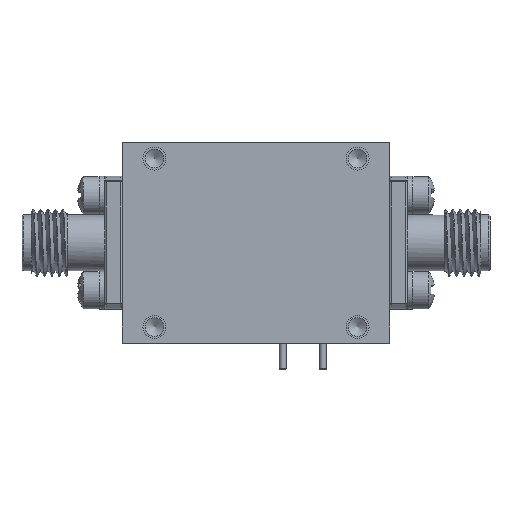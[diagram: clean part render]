
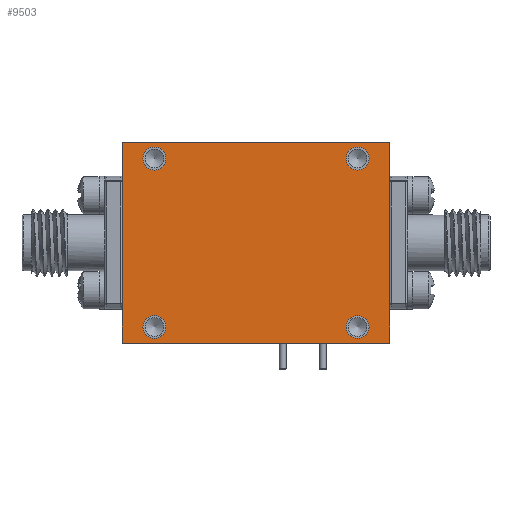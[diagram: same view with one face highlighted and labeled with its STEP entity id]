
A CAD part, front view. The second image highlights one B-rep face of the part: STEP entity #9503.
In plain terms, the highlighted planar face has unit normal (0, -1, 0).
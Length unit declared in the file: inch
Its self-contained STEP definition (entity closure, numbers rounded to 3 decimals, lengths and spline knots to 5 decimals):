
#86 = DIRECTION ( 'NONE',  ( 0., -1., 0. ) ) ;
#333 = VERTEX_POINT ( 'NONE', #12782 ) ;
#790 = LINE ( 'NONE', #971, #27947 ) ;
#971 = CARTESIAN_POINT ( 'NONE',  ( -0.5, -0.25, 0.375 ) ) ;
#1374 = ORIENTED_EDGE ( 'NONE', *, *, #14712, .F. ) ;
#1381 = VERTEX_POINT ( 'NONE', #24839 ) ;
#1410 = AXIS2_PLACEMENT_3D ( 'NONE', #33177, #86, #23452 ) ;
#1908 = AXIS2_PLACEMENT_3D ( 'NONE', #31451, #14201, #16065 ) ;
#1950 = CIRCLE ( 'NONE', #1410, 0.043 ) ;
#2113 = LINE ( 'NONE', #12391, #11161 ) ;
#2443 = LINE ( 'NONE', #7653, #18005 ) ;
#4077 = ORIENTED_EDGE ( 'NONE', *, *, #14228, .F. ) ;
#4260 = EDGE_CURVE ( 'NONE', #333, #26503, #2113, .T. ) ;
#5039 = EDGE_LOOP ( 'NONE', ( #1374 ) ) ;
#5309 = VERTEX_POINT ( 'NONE', #31270 ) ;
#5905 = EDGE_CURVE ( 'NONE', #1381, #333, #24273, .T. ) ;
#6120 = VECTOR ( 'NONE', #11000, 39.37008 ) ;
#6302 = ORIENTED_EDGE ( 'NONE', *, *, #15594, .F. ) ;
#6682 = CARTESIAN_POINT ( 'NONE',  ( 0.5, -0.25, 0.375 ) ) ;
#6698 = DIRECTION ( 'NONE',  ( 1., 0., 0. ) ) ;
#7187 = AXIS2_PLACEMENT_3D ( 'NONE', #25893, #26389, #16305 ) ;
#7653 = CARTESIAN_POINT ( 'NONE',  ( 0.5, -0.25, -0.375 ) ) ;
#8212 = ORIENTED_EDGE ( 'NONE', *, *, #4260, .F. ) ;
#9503 = ADVANCED_FACE ( 'NONE', ( #22692, #10569, #15447, #30817, #30517 ), #25682, .F. ) ;
#10288 = ORIENTED_EDGE ( 'NONE', *, *, #28180, .F. ) ;
#10569 = FACE_BOUND ( 'NONE', #22311, .T. ) ;
#10919 = CIRCLE ( 'NONE', #7187, 0.043 ) ;
#10944 = CARTESIAN_POINT ( 'NONE',  ( -0.5, -0.25, 0.375 ) ) ;
#11000 = DIRECTION ( 'NONE',  ( -1., 0., 0. ) ) ;
#11161 = VECTOR ( 'NONE', #22635, 39.37008 ) ;
#12391 = CARTESIAN_POINT ( 'NONE',  ( -0.5, -0.25, -0.375 ) ) ;
#12596 = DIRECTION ( 'NONE',  ( 0., 0., 1. ) ) ;
#12782 = CARTESIAN_POINT ( 'NONE',  ( -0.5, -0.25, -0.375 ) ) ;
#12870 = DIRECTION ( 'NONE',  ( 0., 0., -1. ) ) ;
#13511 = EDGE_CURVE ( 'NONE', #5309, #5309, #22834, .T. ) ;
#14201 = DIRECTION ( 'NONE',  ( 0., -1., 0. ) ) ;
#14228 = EDGE_CURVE ( 'NONE', #23441, #23441, #1950, .T. ) ;
#14321 = EDGE_LOOP ( 'NONE', ( #4077 ) ) ;
#14351 = CIRCLE ( 'NONE', #20265, 0.043 ) ;
#14712 = EDGE_CURVE ( 'NONE', #15577, #15577, #14351, .T. ) ;
#15447 = FACE_BOUND ( 'NONE', #5039, .T. ) ;
#15577 = VERTEX_POINT ( 'NONE', #28761 ) ;
#15594 = EDGE_CURVE ( 'NONE', #18112, #1381, #2443, .T. ) ;
#16065 = DIRECTION ( 'NONE',  ( 0., 0., -1. ) ) ;
#16305 = DIRECTION ( 'NONE',  ( 0., 0., -1. ) ) ;
#16385 = CARTESIAN_POINT ( 'NONE',  ( 0.38, -0.25, 0.272 ) ) ;
#18005 = VECTOR ( 'NONE', #12870, 39.37008 ) ;
#18112 = VERTEX_POINT ( 'NONE', #6682 ) ;
#18391 = EDGE_LOOP ( 'NONE', ( #26074 ) ) ;
#19592 = VERTEX_POINT ( 'NONE', #16385 ) ;
#20265 = AXIS2_PLACEMENT_3D ( 'NONE', #21364, #29348, #31866 ) ;
#21364 = CARTESIAN_POINT ( 'NONE',  ( -0.38, -0.25, 0.315 ) ) ;
#22044 = EDGE_CURVE ( 'NONE', #19592, #19592, #10919, .T. ) ;
#22311 = EDGE_LOOP ( 'NONE', ( #28064 ) ) ;
#22452 = AXIS2_PLACEMENT_3D ( 'NONE', #30671, #32882, #12596 ) ;
#22635 = DIRECTION ( 'NONE',  ( 0., 0., 1. ) ) ;
#22692 = FACE_BOUND ( 'NONE', #18391, .T. ) ;
#22834 = CIRCLE ( 'NONE', #1908, 0.043 ) ;
#23010 = EDGE_LOOP ( 'NONE', ( #8212, #23064, #6302, #10288 ) ) ;
#23064 = ORIENTED_EDGE ( 'NONE', *, *, #5905, .F. ) ;
#23441 = VERTEX_POINT ( 'NONE', #26120 ) ;
#23452 = DIRECTION ( 'NONE',  ( 0., 0., -1. ) ) ;
#23583 = CARTESIAN_POINT ( 'NONE',  ( -0.5, -0.25, -0.375 ) ) ;
#24273 = LINE ( 'NONE', #23583, #6120 ) ;
#24839 = CARTESIAN_POINT ( 'NONE',  ( 0.5, -0.25, -0.375 ) ) ;
#25682 = PLANE ( 'NONE',  #22452 ) ;
#25893 = CARTESIAN_POINT ( 'NONE',  ( 0.38, -0.25, 0.315 ) ) ;
#26074 = ORIENTED_EDGE ( 'NONE', *, *, #13511, .F. ) ;
#26120 = CARTESIAN_POINT ( 'NONE',  ( -0.38, -0.25, -0.358 ) ) ;
#26389 = DIRECTION ( 'NONE',  ( 0., -1., 0. ) ) ;
#26503 = VERTEX_POINT ( 'NONE', #10944 ) ;
#27947 = VECTOR ( 'NONE', #6698, 39.37008 ) ;
#28064 = ORIENTED_EDGE ( 'NONE', *, *, #22044, .F. ) ;
#28180 = EDGE_CURVE ( 'NONE', #26503, #18112, #790, .T. ) ;
#28761 = CARTESIAN_POINT ( 'NONE',  ( -0.38, -0.25, 0.272 ) ) ;
#29348 = DIRECTION ( 'NONE',  ( 0., -1., 0. ) ) ;
#30517 = FACE_OUTER_BOUND ( 'NONE', #23010, .T. ) ;
#30671 = CARTESIAN_POINT ( 'NONE',  ( 0., -0.25, 0. ) ) ;
#30817 = FACE_BOUND ( 'NONE', #14321, .T. ) ;
#31270 = CARTESIAN_POINT ( 'NONE',  ( 0.38, -0.25, -0.358 ) ) ;
#31451 = CARTESIAN_POINT ( 'NONE',  ( 0.38, -0.25, -0.315 ) ) ;
#31866 = DIRECTION ( 'NONE',  ( 0., 0., -1. ) ) ;
#32882 = DIRECTION ( 'NONE',  ( 0., 1., 0. ) ) ;
#33177 = CARTESIAN_POINT ( 'NONE',  ( -0.38, -0.25, -0.315 ) ) ;
